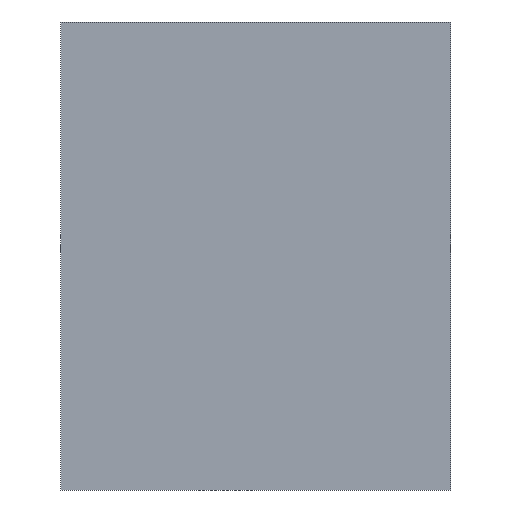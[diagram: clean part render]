
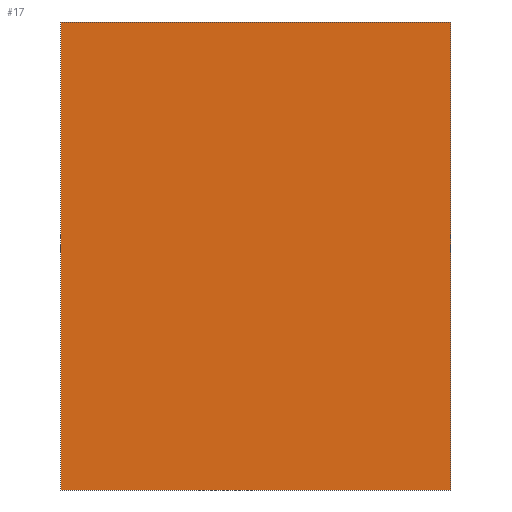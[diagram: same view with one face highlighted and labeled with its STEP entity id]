
A CAD part, left-side view. The second image highlights one B-rep face of the part: STEP entity #17.
In plain terms, the highlighted planar face has unit normal (-1, 0, 0).
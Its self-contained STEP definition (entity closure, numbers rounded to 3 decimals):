
#17 = ADVANCED_FACE('',(#18),#32,.F.);
#18 = FACE_BOUND('',#19,.F.);
#19 = EDGE_LOOP('',(#20,#55,#83,#111));
#20 = ORIENTED_EDGE('',*,*,#21,.F.);
#21 = EDGE_CURVE('',#22,#24,#26,.T.);
#22 = VERTEX_POINT('',#23);
#23 = CARTESIAN_POINT('',(-3.5,59.,-4.2));
#24 = VERTEX_POINT('',#25);
#25 = CARTESIAN_POINT('',(-3.5,59.,7.8));
#26 = SURFACE_CURVE('',#27,(#31,#43),.PCURVE_S1.);
#27 = LINE('',#28,#29);
#28 = CARTESIAN_POINT('',(-3.5,59.,-4.2));
#29 = VECTOR('',#30,1.);
#30 = DIRECTION('',(0.,0.,1.));
#31 = PCURVE('',#32,#37);
#32 = PLANE('',#33);
#33 = AXIS2_PLACEMENT_3D('',#34,#35,#36);
#34 = CARTESIAN_POINT('',(-3.5,59.,-4.2));
#35 = DIRECTION('',(1.,0.,0.));
#36 = DIRECTION('',(0.,0.,1.));
#37 = DEFINITIONAL_REPRESENTATION('',(#38),#42);
#38 = LINE('',#39,#40);
#39 = CARTESIAN_POINT('',(0.,0.));
#40 = VECTOR('',#41,1.);
#41 = DIRECTION('',(1.,0.));
#42 = ( GEOMETRIC_REPRESENTATION_CONTEXT(2) 
PARAMETRIC_REPRESENTATION_CONTEXT() REPRESENTATION_CONTEXT('2D SPACE',''
  ) );
#43 = PCURVE('',#44,#49);
#44 = PLANE('',#45);
#45 = AXIS2_PLACEMENT_3D('',#46,#47,#48);
#46 = CARTESIAN_POINT('',(-3.5,59.,-4.2));
#47 = DIRECTION('',(0.,1.,0.));
#48 = DIRECTION('',(0.,0.,1.));
#49 = DEFINITIONAL_REPRESENTATION('',(#50),#54);
#50 = LINE('',#51,#52);
#51 = CARTESIAN_POINT('',(0.,0.));
#52 = VECTOR('',#53,1.);
#53 = DIRECTION('',(1.,0.));
#54 = ( GEOMETRIC_REPRESENTATION_CONTEXT(2) 
PARAMETRIC_REPRESENTATION_CONTEXT() REPRESENTATION_CONTEXT('2D SPACE',''
  ) );
#55 = ORIENTED_EDGE('',*,*,#56,.T.);
#56 = EDGE_CURVE('',#22,#57,#59,.T.);
#57 = VERTEX_POINT('',#58);
#58 = CARTESIAN_POINT('',(-3.5,69.,-4.2));
#59 = SURFACE_CURVE('',#60,(#64,#71),.PCURVE_S1.);
#60 = LINE('',#61,#62);
#61 = CARTESIAN_POINT('',(-3.5,59.,-4.2));
#62 = VECTOR('',#63,1.);
#63 = DIRECTION('',(0.,1.,0.));
#64 = PCURVE('',#32,#65);
#65 = DEFINITIONAL_REPRESENTATION('',(#66),#70);
#66 = LINE('',#67,#68);
#67 = CARTESIAN_POINT('',(0.,0.));
#68 = VECTOR('',#69,1.);
#69 = DIRECTION('',(0.,-1.));
#70 = ( GEOMETRIC_REPRESENTATION_CONTEXT(2) 
PARAMETRIC_REPRESENTATION_CONTEXT() REPRESENTATION_CONTEXT('2D SPACE',''
  ) );
#71 = PCURVE('',#72,#77);
#72 = PLANE('',#73);
#73 = AXIS2_PLACEMENT_3D('',#74,#75,#76);
#74 = CARTESIAN_POINT('',(-3.5,59.,-4.2));
#75 = DIRECTION('',(0.,0.,1.));
#76 = DIRECTION('',(1.,0.,0.));
#77 = DEFINITIONAL_REPRESENTATION('',(#78),#82);
#78 = LINE('',#79,#80);
#79 = CARTESIAN_POINT('',(0.,0.));
#80 = VECTOR('',#81,1.);
#81 = DIRECTION('',(0.,1.));
#82 = ( GEOMETRIC_REPRESENTATION_CONTEXT(2) 
PARAMETRIC_REPRESENTATION_CONTEXT() REPRESENTATION_CONTEXT('2D SPACE',''
  ) );
#83 = ORIENTED_EDGE('',*,*,#84,.T.);
#84 = EDGE_CURVE('',#57,#85,#87,.T.);
#85 = VERTEX_POINT('',#86);
#86 = CARTESIAN_POINT('',(-3.5,69.,7.8));
#87 = SURFACE_CURVE('',#88,(#92,#99),.PCURVE_S1.);
#88 = LINE('',#89,#90);
#89 = CARTESIAN_POINT('',(-3.5,69.,-4.2));
#90 = VECTOR('',#91,1.);
#91 = DIRECTION('',(0.,0.,1.));
#92 = PCURVE('',#32,#93);
#93 = DEFINITIONAL_REPRESENTATION('',(#94),#98);
#94 = LINE('',#95,#96);
#95 = CARTESIAN_POINT('',(0.,-10.));
#96 = VECTOR('',#97,1.);
#97 = DIRECTION('',(1.,0.));
#98 = ( GEOMETRIC_REPRESENTATION_CONTEXT(2) 
PARAMETRIC_REPRESENTATION_CONTEXT() REPRESENTATION_CONTEXT('2D SPACE',''
  ) );
#99 = PCURVE('',#100,#105);
#100 = PLANE('',#101);
#101 = AXIS2_PLACEMENT_3D('',#102,#103,#104);
#102 = CARTESIAN_POINT('',(-3.5,69.,-4.2));
#103 = DIRECTION('',(0.,1.,0.));
#104 = DIRECTION('',(0.,0.,1.));
#105 = DEFINITIONAL_REPRESENTATION('',(#106),#110);
#106 = LINE('',#107,#108);
#107 = CARTESIAN_POINT('',(0.,0.));
#108 = VECTOR('',#109,1.);
#109 = DIRECTION('',(1.,0.));
#110 = ( GEOMETRIC_REPRESENTATION_CONTEXT(2) 
PARAMETRIC_REPRESENTATION_CONTEXT() REPRESENTATION_CONTEXT('2D SPACE',''
  ) );
#111 = ORIENTED_EDGE('',*,*,#112,.F.);
#112 = EDGE_CURVE('',#24,#85,#113,.T.);
#113 = SURFACE_CURVE('',#114,(#118,#125),.PCURVE_S1.);
#114 = LINE('',#115,#116);
#115 = CARTESIAN_POINT('',(-3.5,59.,7.8));
#116 = VECTOR('',#117,1.);
#117 = DIRECTION('',(0.,1.,0.));
#118 = PCURVE('',#32,#119);
#119 = DEFINITIONAL_REPRESENTATION('',(#120),#124);
#120 = LINE('',#121,#122);
#121 = CARTESIAN_POINT('',(12.,0.));
#122 = VECTOR('',#123,1.);
#123 = DIRECTION('',(0.,-1.));
#124 = ( GEOMETRIC_REPRESENTATION_CONTEXT(2) 
PARAMETRIC_REPRESENTATION_CONTEXT() REPRESENTATION_CONTEXT('2D SPACE',''
  ) );
#125 = PCURVE('',#126,#131);
#126 = PLANE('',#127);
#127 = AXIS2_PLACEMENT_3D('',#128,#129,#130);
#128 = CARTESIAN_POINT('',(-3.5,59.,7.8));
#129 = DIRECTION('',(0.,0.,1.));
#130 = DIRECTION('',(1.,0.,0.));
#131 = DEFINITIONAL_REPRESENTATION('',(#132),#136);
#132 = LINE('',#133,#134);
#133 = CARTESIAN_POINT('',(0.,0.));
#134 = VECTOR('',#135,1.);
#135 = DIRECTION('',(0.,1.));
#136 = ( GEOMETRIC_REPRESENTATION_CONTEXT(2) 
PARAMETRIC_REPRESENTATION_CONTEXT() REPRESENTATION_CONTEXT('2D SPACE',''
  ) );
